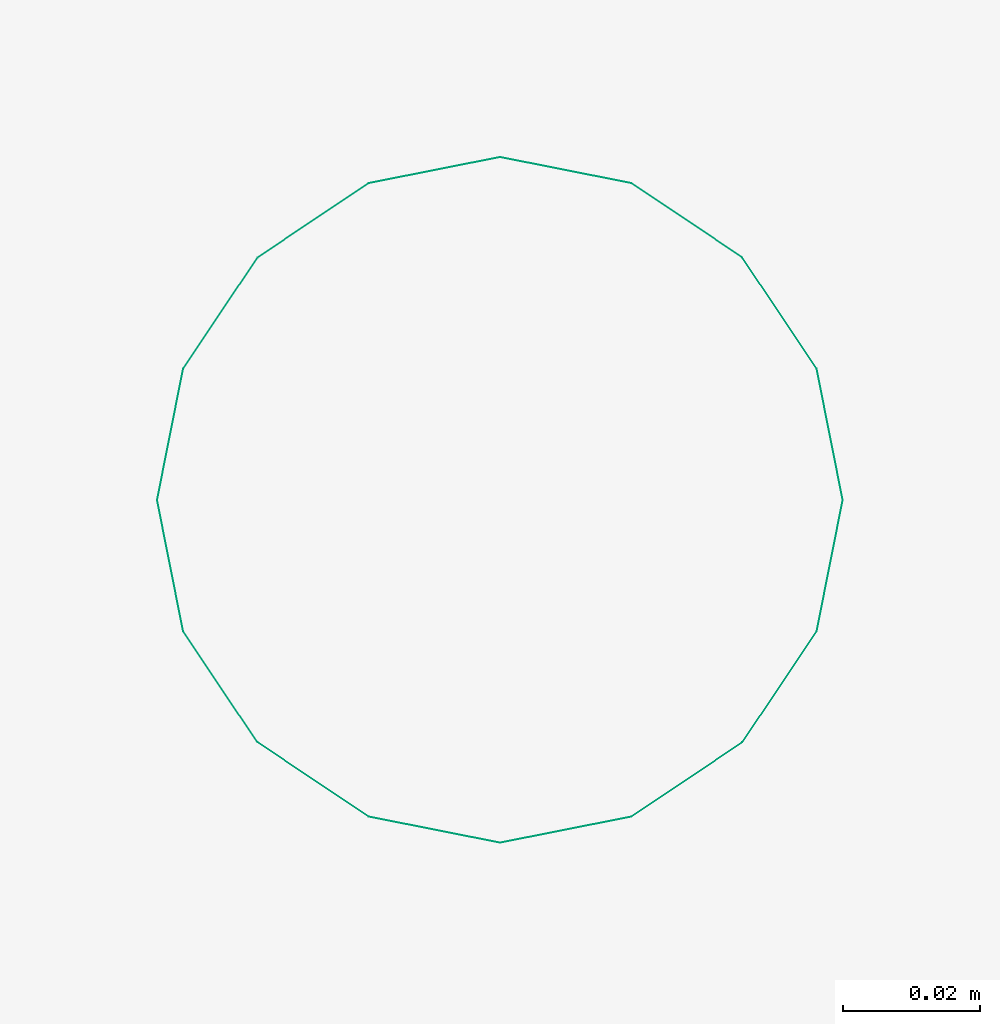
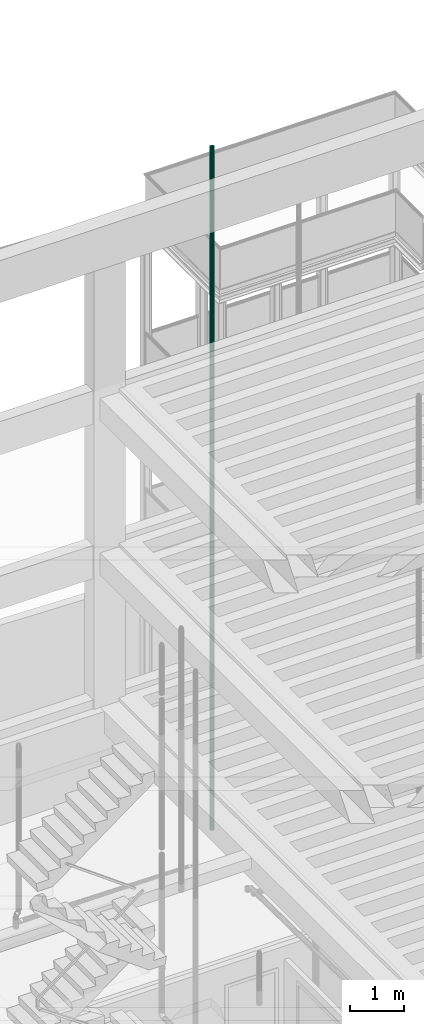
# One storey, part 66 of 108: 1 flow segment.
"""IFC2X3 building model written with IfcOpenShell, lengths in metres."""

from ifc_helpers import new_model, entity, si_unit, converted_unit, derived_unit, money_unit, direction, frame, origin_with_axes, place, context, subcontext, project, spatial, faceted_brep, material, type_object, element, save


model = new_model("IFC2X3")

# Units and contexts
model_context = context("Model", 3, precision=1e-05, world=origin_with_axes(), true_north=direction((0.0, 1.0)))
body_context = subcontext(model_context, "Body", "Model", "MODEL_VIEW", scale=1.0)
ifc_project = project(units=[si_unit("LENGTHUNIT", "METRE"), si_unit("AREAUNIT", "SQUARE_METRE"), si_unit("VOLUMEUNIT", "CUBIC_METRE"), si_unit("ABSORBEDDOSEUNIT", "GRAY"), si_unit("AMOUNTOFSUBSTANCEUNIT", "MOLE"), si_unit("DOSEEQUIVALENTUNIT", "SIEVERT"), si_unit("ELECTRICCAPACITANCEUNIT", "FARAD"), si_unit("ELECTRICCHARGEUNIT", "COULOMB"), si_unit("ELECTRICCONDUCTANCEUNIT", "SIEMENS"), si_unit("ELECTRICCURRENTUNIT", "AMPERE"), si_unit("ELECTRICRESISTANCEUNIT", "OHM"), si_unit("ELECTRICVOLTAGEUNIT", "VOLT"), si_unit("ENERGYUNIT", "JOULE"), si_unit("FORCEUNIT", "NEWTON"), si_unit("FREQUENCYUNIT", "HERTZ"), si_unit("ILLUMINANCEUNIT", "LUX"), si_unit("INDUCTANCEUNIT", "HENRY"), si_unit("LUMINOUSFLUXUNIT", "LUMEN"), si_unit("LUMINOUSINTENSITYUNIT", "CANDELA"), si_unit("MAGNETICFLUXDENSITYUNIT", "TESLA"), si_unit("MAGNETICFLUXUNIT", "WEBER"), si_unit("MASSUNIT", "GRAM"), converted_unit("PLANEANGLEUNIT", "degree", entity("IfcReal", 0.0174532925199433), si_unit("PLANEANGLEUNIT", "RADIAN"), dimensions=[0, 0, 0, 0, 0, 0, 0]), si_unit("POWERUNIT", "WATT"), si_unit("PRESSUREUNIT", "PASCAL"), si_unit("RADIOACTIVITYUNIT", "BECQUEREL"), si_unit("SOLIDANGLEUNIT", "STERADIAN"), si_unit("THERMODYNAMICTEMPERATUREUNIT", "KELVIN"), si_unit("TIMEUNIT", "SECOND"), derived_unit("ACCELERATIONUNIT", [(si_unit("LENGTHUNIT", "METRE"), 1), (si_unit("TIMEUNIT", "SECOND"), -2)]), derived_unit("ANGULARVELOCITYUNIT", [(converted_unit("PLANEANGLEUNIT", "degree", entity("IfcReal", 0.0174532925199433), si_unit("PLANEANGLEUNIT", "RADIAN"), dimensions=[0, 0, 0, 0, 0, 0, 0]), 1), (si_unit("TIMEUNIT", "SECOND"), -1)]), derived_unit("CURVATUREUNIT", [(converted_unit("PLANEANGLEUNIT", "degree", entity("IfcReal", 0.0174532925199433), si_unit("PLANEANGLEUNIT", "RADIAN"), dimensions=[0, 0, 0, 0, 0, 0, 0]), 1), (si_unit("LENGTHUNIT", "METRE"), -1)]), derived_unit("DYNAMICVISCOSITYUNIT", [(si_unit("PRESSUREUNIT", "PASCAL"), 1), (si_unit("TIMEUNIT", "SECOND"), 1)]), derived_unit("HEATFLUXDENSITYUNIT", [(si_unit("POWERUNIT", "WATT"), 1), (si_unit("LENGTHUNIT", "METRE"), -2)]), derived_unit("HEATINGVALUEUNIT", [(si_unit("ENERGYUNIT", "JOULE"), 1), (si_unit("MASSUNIT", "GRAM"), -1)]), derived_unit("INTEGERCOUNTRATEUNIT", [(si_unit("TIMEUNIT", "SECOND"), -1)]), derived_unit("IONCONCENTRATIONUNIT", [(si_unit("MASSUNIT", "GRAM"), 1), (si_unit("VOLUMEUNIT", "CUBIC_METRE"), -1)]), derived_unit("ISOTHERMALMOISTURECAPACITYUNIT", [(si_unit("VOLUMEUNIT", "CUBIC_METRE"), 1), (si_unit("MASSUNIT", "GRAM"), -1)]), derived_unit("KINEMATICVISCOSITYUNIT", [(si_unit("AREAUNIT", "SQUARE_METRE"), 1), (si_unit("TIMEUNIT", "SECOND"), -1)]), derived_unit("LINEARFORCEUNIT", [(si_unit("FORCEUNIT", "NEWTON"), 1), (si_unit("LENGTHUNIT", "METRE"), -1)]), derived_unit("LINEARMOMENTUNIT", [(si_unit("FORCEUNIT", "NEWTON"), 1), (si_unit("LENGTHUNIT", "METRE"), -1)]), derived_unit("LINEARSTIFFNESSUNIT", [(si_unit("FORCEUNIT", "NEWTON"), 1), (si_unit("LENGTHUNIT", "METRE"), -1)]), derived_unit("LINEARVELOCITYUNIT", [(si_unit("LENGTHUNIT", "METRE"), 1), (si_unit("TIMEUNIT", "SECOND"), -1)]), derived_unit("LUMINOUSINTENSITYDISTRIBUTIONUNIT", [(si_unit("LUMINOUSINTENSITYUNIT", "CANDELA"), 1), (si_unit("LUMINOUSFLUXUNIT", "LUMEN"), -1)]), derived_unit("MASSDENSITYUNIT", [(si_unit("MASSUNIT", "GRAM"), 1), (si_unit("VOLUMEUNIT", "CUBIC_METRE"), -1)]), derived_unit("MASSFLOWRATEUNIT", [(si_unit("MASSUNIT", "GRAM"), 1), (si_unit("TIMEUNIT", "SECOND"), -1)]), derived_unit("MASSPERLENGTHUNIT", [(si_unit("MASSUNIT", "GRAM"), 1), (si_unit("LENGTHUNIT", "METRE"), -1)]), derived_unit("MODULUSOFELASTICITYUNIT", [(si_unit("FORCEUNIT", "NEWTON"), 1), (si_unit("AREAUNIT", "SQUARE_METRE"), -1)]), derived_unit("MODULUSOFLINEARSUBGRADEREACTIONUNIT", [(si_unit("FORCEUNIT", "NEWTON"), 1), (si_unit("LENGTHUNIT", "METRE"), -2)]), derived_unit("MODULUSOFROTATIONALSUBGRADEREACTIONUNIT", [(si_unit("FORCEUNIT", "NEWTON"), 1), (si_unit("LENGTHUNIT", "METRE"), 1)]), derived_unit("MODULUSOFSUBGRADEREACTIONUNIT", [(si_unit("FORCEUNIT", "NEWTON"), 1), (si_unit("VOLUMEUNIT", "CUBIC_METRE"), -1)]), derived_unit("MOISTUREDIFFUSIVITYUNIT", [(si_unit("VOLUMEUNIT", "CUBIC_METRE"), 1), (si_unit("TIMEUNIT", "SECOND"), -1)]), derived_unit("MOLECULARWEIGHTUNIT", [(si_unit("MASSUNIT", "GRAM"), 1), (si_unit("AMOUNTOFSUBSTANCEUNIT", "MOLE"), -1)]), derived_unit("PLANARFORCEUNIT", [(si_unit("FORCEUNIT", "NEWTON"), 1), (si_unit("LENGTHUNIT", "METRE"), -2)]), derived_unit("ROTATIONALFREQUENCYUNIT", [(si_unit("TIMEUNIT", "SECOND"), -1)]), derived_unit("ROTATIONALMASSUNIT", [(si_unit("MASSUNIT", "GRAM"), 1), (si_unit("LENGTHUNIT", "METRE"), 2)]), derived_unit("ROTATIONALSTIFFNESSUNIT", [(si_unit("FORCEUNIT", "NEWTON"), 1), (si_unit("LENGTHUNIT", "METRE"), 1), (converted_unit("PLANEANGLEUNIT", "degree", entity("IfcReal", 0.0174532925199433), si_unit("PLANEANGLEUNIT", "RADIAN"), dimensions=[0, 0, 0, 0, 0, 0, 0]), -1)]), derived_unit("SECTIONAREAINTEGRALUNIT", [(si_unit("LENGTHUNIT", "METRE"), 5)]), derived_unit("SECTIONMODULUSUNIT", [(si_unit("LENGTHUNIT", "METRE"), 3)]), derived_unit("SHEARMODULUSUNIT", [(si_unit("FORCEUNIT", "NEWTON"), 1), (si_unit("AREAUNIT", "SQUARE_METRE"), -1)]), derived_unit("SOUNDPOWERUNIT", [(si_unit("ENERGYUNIT", "JOULE"), 1), (si_unit("TIMEUNIT", "SECOND"), -1)]), derived_unit("SPECIFICHEATCAPACITYUNIT", [(si_unit("FORCEUNIT", "NEWTON"), 1), (si_unit("MASSUNIT", "GRAM"), -1), (si_unit("THERMODYNAMICTEMPERATUREUNIT", "KELVIN"), -1)]), derived_unit("TEMPERATUREGRADIENTUNIT", [(si_unit("THERMODYNAMICTEMPERATUREUNIT", "KELVIN"), 1), (si_unit("LENGTHUNIT", "METRE"), -1)]), derived_unit("THERMALADMITTANCEUNIT", [(si_unit("POWERUNIT", "WATT"), 1), (si_unit("AREAUNIT", "SQUARE_METRE"), -1), (si_unit("THERMODYNAMICTEMPERATUREUNIT", "KELVIN"), -1)]), derived_unit("THERMALCONDUCTANCEUNIT", [(si_unit("POWERUNIT", "WATT"), 1), (si_unit("LENGTHUNIT", "METRE"), -1), (si_unit("THERMODYNAMICTEMPERATUREUNIT", "KELVIN"), -1)]), derived_unit("THERMALEXPANSIONCOEFFICIENTUNIT", [(si_unit("THERMODYNAMICTEMPERATUREUNIT", "KELVIN"), -1)]), derived_unit("THERMALRESISTANCEUNIT", [(si_unit("AREAUNIT", "SQUARE_METRE"), 1), (si_unit("POWERUNIT", "WATT"), -1)]), derived_unit("THERMALTRANSMITTANCEUNIT", [(si_unit("POWERUNIT", "WATT"), 1), (si_unit("AREAUNIT", "SQUARE_METRE"), -1), (si_unit("THERMODYNAMICTEMPERATUREUNIT", "KELVIN"), -1)]), derived_unit("TORQUEUNIT", [(si_unit("FORCEUNIT", "NEWTON"), 1), (si_unit("LENGTHUNIT", "METRE"), 1)]), derived_unit("VAPORPERMEABILITYUNIT", [(si_unit("MASSUNIT", "GRAM"), 1), (si_unit("TIMEUNIT", "SECOND"), -1)]), derived_unit("VOLUMETRICFLOWRATEUNIT", [(si_unit("VOLUMEUNIT", "CUBIC_METRE"), 1), (si_unit("TIMEUNIT", "SECOND"), -1)]), derived_unit("WARPINGCONSTANTUNIT", [(si_unit("LENGTHUNIT", "METRE"), 6)]), derived_unit("WARPINGMOMENTUNIT", [(si_unit("FORCEUNIT", "NEWTON"), 1), (si_unit("LENGTHUNIT", "METRE"), 2)]), money_unit("GBP")], contexts=[model_context])

# Site, building, storey, space
site_placement = place(None, origin_with_axes())
site = spatial("IfcSite", under=ifc_project, at=site_placement, Name="Site", CompositionType="ELEMENT")
building_placement = place(site_placement, origin_with_axes())
building = spatial("IfcBuilding", under=site, at=building_placement, Name="Building01", CompositionType="ELEMENT")
storey_placement = place(building_placement, origin_with_axes())
storey = spatial("IfcBuildingStorey", under=building, at=storey_placement, Name="GF", CompositionType="ELEMENT", Elevation=0.0)
space_placement = place(storey_placement, frame((21.91816, 14.897172, 0.0), z_axis=(0.0, 0.0, 1.0), x_axis=(1.0, 0.0, 0.0)))
space = spatial("IfcSpace", under=storey, at=space_placement, Name="0", CompositionType="ELEMENT", InteriorOrExteriorSpace="NOTDEFINED")

# Flow segment
ifc_material = material(Name="M_BSUK_ColdWater")
pipe_segment_type = type_object("IfcPipeSegmentType", Name="M-BmpStraightpipe-DefaultPipe", PredefinedType="RIGIDSEGMENT")
flow_segment_placement = place(storey_placement, frame((20.899604, 15.881611, 15.576024), z_axis=(0.0, -1.0, 0.0), x_axis=(0.0, 0.0, -1.0)))
element("IfcFlowSegment", 1, at=flow_segment_placement, inside=space, type_object=pipe_segment_type, material=ifc_material, Name="M-BmpStraightpipe-DefaultPipe", ObjectType="M-BmpStraightpipe-DefaultPipe", context=body_context, shape_type="Brep", body=[
    faceted_brep([(15.419323, 0.0, -0.05), (0.0, 0.0, -0.05), (0.0, 0.019134, -0.046194), (15.419323, 0.019134, -0.046194), (0.0, 0.035355, -0.035355), (15.419323, 0.035355, -0.035355), (0.0, 0.046194, -0.019134), (15.419323, 0.046194, -0.019134), (0.0, 0.05, 0.0), (15.419323, 0.05, 0.0), (0.0, 0.046194, 0.019134), (15.419323, 0.046194, 0.019134), (0.0, 0.035355, 0.035355), (15.419323, 0.035355, 0.035355), (0.0, 0.019134, 0.046194), (15.419323, 0.019134, 0.046194), (0.0, 0.0, 0.05), (15.419323, 0.0, 0.05), (0.0, -0.019134, 0.046194), (15.419323, -0.019134, 0.046194), (0.0, -0.035355, 0.035355), (15.419323, -0.035355, 0.035355), (0.0, -0.046194, 0.019134), (15.419323, -0.046194, 0.019134), (0.0, -0.05, 0.0), (15.419323, -0.05, 0.0), (0.0, -0.046194, -0.019134), (15.419323, -0.046194, -0.019134), (0.0, -0.035355, -0.035355), (15.419323, -0.035355, -0.035355), (0.0, -0.019134, -0.046194), (15.419323, -0.019134, -0.046194)], [[[0, 1, 2, 3]], [[3, 2, 4, 5]], [[5, 4, 6, 7]], [[7, 6, 8, 9]], [[9, 8, 10, 11]], [[11, 10, 12, 13]], [[13, 12, 14, 15]], [[15, 14, 16, 17]], [[17, 16, 18, 19]], [[19, 18, 20, 21]], [[21, 20, 22, 23]], [[23, 22, 24, 25]], [[25, 24, 26, 27]], [[27, 26, 28, 29]], [[29, 28, 30, 31]], [[31, 30, 1, 0]]]),
])

save(model, "model.ifc")
